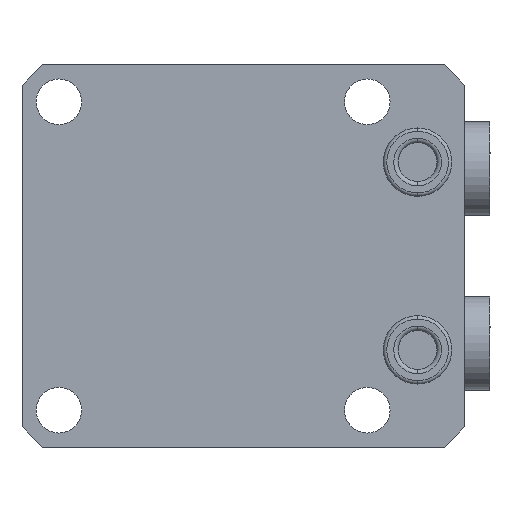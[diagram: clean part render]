
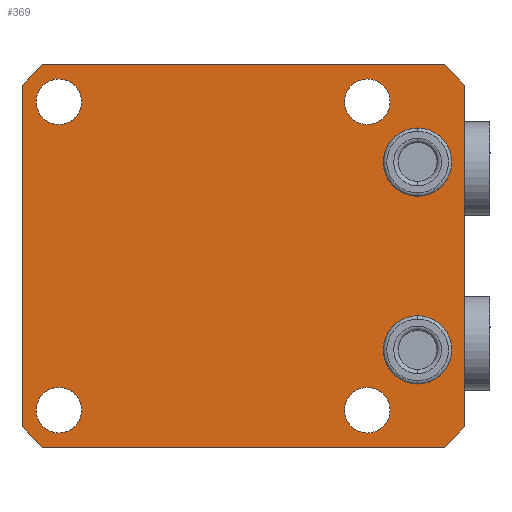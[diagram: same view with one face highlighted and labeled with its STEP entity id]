
A CAD part, front view. The second image highlights one B-rep face of the part: STEP entity #369.
In plain terms, the highlighted planar face has unit normal (0, -1, 0).
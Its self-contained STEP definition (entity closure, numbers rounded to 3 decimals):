
#232=PLANE('',#2699);
#293=FACE_BOUND('',#717,.T.);
#294=FACE_BOUND('',#718,.T.);
#295=FACE_BOUND('',#719,.T.);
#296=FACE_BOUND('',#720,.T.);
#297=FACE_BOUND('',#721,.T.);
#298=FACE_BOUND('',#722,.T.);
#299=FACE_BOUND('',#723,.T.);
#369=ADVANCED_FACE('',(#293,#294,#295,#296,#297,#298,#299),#232,.F.);
#717=EDGE_LOOP('',(#1124,#1125,#1126,#1127,#1128,#1129,#1130,#1131));
#718=EDGE_LOOP('',(#1132,#1133));
#719=EDGE_LOOP('',(#1134,#1135));
#720=EDGE_LOOP('',(#1136,#1137));
#721=EDGE_LOOP('',(#1138,#1139));
#722=EDGE_LOOP('',(#1140,#1141));
#723=EDGE_LOOP('',(#1142,#1143));
#897=CIRCLE('',#2654,5.1);
#913=CIRCLE('',#2675,5.1);
#914=CIRCLE('',#2677,3.4);
#916=CIRCLE('',#2680,3.4);
#918=CIRCLE('',#2683,3.4);
#920=CIRCLE('',#2686,3.4);
#924=CIRCLE('',#2693,3.4);
#925=CIRCLE('',#2694,3.4);
#926=CIRCLE('',#2695,3.4);
#927=CIRCLE('',#2696,3.4);
#928=CIRCLE('',#2697,5.1);
#929=CIRCLE('',#2698,5.1);
#1124=ORIENTED_EDGE('',*,*,#2047,.F.);
#1125=ORIENTED_EDGE('',*,*,#2048,.T.);
#1126=ORIENTED_EDGE('',*,*,#2049,.F.);
#1127=ORIENTED_EDGE('',*,*,#2050,.T.);
#1128=ORIENTED_EDGE('',*,*,#1970,.F.);
#1129=ORIENTED_EDGE('',*,*,#2051,.T.);
#1130=ORIENTED_EDGE('',*,*,#2052,.F.);
#1131=ORIENTED_EDGE('',*,*,#2053,.T.);
#1132=ORIENTED_EDGE('',*,*,#2027,.F.);
#1133=ORIENTED_EDGE('',*,*,#2054,.F.);
#1134=ORIENTED_EDGE('',*,*,#2023,.F.);
#1135=ORIENTED_EDGE('',*,*,#2055,.F.);
#1136=ORIENTED_EDGE('',*,*,#2019,.F.);
#1137=ORIENTED_EDGE('',*,*,#2056,.F.);
#1138=ORIENTED_EDGE('',*,*,#2015,.F.);
#1139=ORIENTED_EDGE('',*,*,#2057,.F.);
#1140=ORIENTED_EDGE('',*,*,#2058,.F.);
#1141=ORIENTED_EDGE('',*,*,#2013,.F.);
#1142=ORIENTED_EDGE('',*,*,#1993,.T.);
#1143=ORIENTED_EDGE('',*,*,#2059,.T.);
#1744=VERTEX_POINT('',#3741);
#1745=VERTEX_POINT('',#3743);
#1762=VERTEX_POINT('',#3788);
#1763=VERTEX_POINT('',#3790);
#1776=VERTEX_POINT('',#3827);
#1777=VERTEX_POINT('',#3829);
#1778=VERTEX_POINT('',#3833);
#1779=VERTEX_POINT('',#3834);
#1782=VERTEX_POINT('',#3842);
#1783=VERTEX_POINT('',#3843);
#1786=VERTEX_POINT('',#3851);
#1787=VERTEX_POINT('',#3852);
#1790=VERTEX_POINT('',#3860);
#1791=VERTEX_POINT('',#3861);
#1810=VERTEX_POINT('',#3940);
#1811=VERTEX_POINT('',#3941);
#1812=VERTEX_POINT('',#3943);
#1813=VERTEX_POINT('',#3945);
#1814=VERTEX_POINT('',#3948);
#1815=VERTEX_POINT('',#3950);
#1970=EDGE_CURVE('',#1744,#1745,#2315,.T.);
#1993=EDGE_CURVE('',#1763,#1762,#897,.T.);
#2013=EDGE_CURVE('',#1776,#1777,#913,.T.);
#2015=EDGE_CURVE('',#1778,#1779,#914,.T.);
#2019=EDGE_CURVE('',#1782,#1783,#916,.T.);
#2023=EDGE_CURVE('',#1786,#1787,#918,.T.);
#2027=EDGE_CURVE('',#1790,#1791,#920,.T.);
#2047=EDGE_CURVE('',#1810,#1811,#2339,.T.);
#2048=EDGE_CURVE('',#1810,#1812,#2340,.T.);
#2049=EDGE_CURVE('',#1813,#1812,#2341,.T.);
#2050=EDGE_CURVE('',#1813,#1745,#2342,.T.);
#2051=EDGE_CURVE('',#1744,#1814,#2343,.T.);
#2052=EDGE_CURVE('',#1815,#1814,#2344,.T.);
#2053=EDGE_CURVE('',#1815,#1811,#2345,.T.);
#2054=EDGE_CURVE('',#1791,#1790,#924,.T.);
#2055=EDGE_CURVE('',#1787,#1786,#925,.T.);
#2056=EDGE_CURVE('',#1783,#1782,#926,.T.);
#2057=EDGE_CURVE('',#1779,#1778,#927,.T.);
#2058=EDGE_CURVE('',#1777,#1776,#928,.T.);
#2059=EDGE_CURVE('',#1762,#1763,#929,.T.);
#2315=LINE('',#3742,#2467);
#2339=LINE('',#3939,#2491);
#2340=LINE('',#3942,#2492);
#2341=LINE('',#3944,#2493);
#2342=LINE('',#3946,#2494);
#2343=LINE('',#3947,#2495);
#2344=LINE('',#3949,#2496);
#2345=LINE('',#3951,#2497);
#2467=VECTOR('',#2964,1.);
#2491=VECTOR('',#3110,1.);
#2492=VECTOR('',#3111,1.);
#2493=VECTOR('',#3112,1.);
#2494=VECTOR('',#3113,1.);
#2495=VECTOR('',#3114,1.);
#2496=VECTOR('',#3115,1.);
#2497=VECTOR('',#3116,1.);
#2654=AXIS2_PLACEMENT_3D('',#3789,#3015,#3016);
#2675=AXIS2_PLACEMENT_3D('',#3828,#3061,#3062);
#2677=AXIS2_PLACEMENT_3D('',#3832,#3066,#3067);
#2680=AXIS2_PLACEMENT_3D('',#3841,#3074,#3075);
#2683=AXIS2_PLACEMENT_3D('',#3850,#3082,#3083);
#2686=AXIS2_PLACEMENT_3D('',#3859,#3090,#3091);
#2693=AXIS2_PLACEMENT_3D('',#3952,#3117,#3118);
#2694=AXIS2_PLACEMENT_3D('',#3953,#3119,#3120);
#2695=AXIS2_PLACEMENT_3D('',#3954,#3121,#3122);
#2696=AXIS2_PLACEMENT_3D('',#3955,#3123,#3124);
#2697=AXIS2_PLACEMENT_3D('',#3956,#3125,#3126);
#2698=AXIS2_PLACEMENT_3D('',#3957,#3127,#3128);
#2699=AXIS2_PLACEMENT_3D('',#3958,#3129,#3130);
#2964=DIRECTION('',(0.,0.,-1.));
#3015=DIRECTION('',(0.,1.,0.));
#3016=DIRECTION('',(0.,0.,1.));
#3061=DIRECTION('',(0.,-1.,0.));
#3062=DIRECTION('',(0.,0.,-1.));
#3066=DIRECTION('',(0.,-1.,0.));
#3067=DIRECTION('',(0.,0.,1.));
#3074=DIRECTION('',(0.,-1.,0.));
#3075=DIRECTION('',(0.,0.,1.));
#3082=DIRECTION('',(0.,-1.,0.));
#3083=DIRECTION('',(0.,0.,1.));
#3090=DIRECTION('',(0.,-1.,0.));
#3091=DIRECTION('',(0.,0.,1.));
#3110=DIRECTION('',(0.,0.,1.));
#3111=DIRECTION('',(0.707,0.,-0.707));
#3112=DIRECTION('',(-1.,0.,0.));
#3113=DIRECTION('',(0.707,0.,0.707));
#3114=DIRECTION('',(-0.707,0.,0.707));
#3115=DIRECTION('',(1.,0.,0.));
#3116=DIRECTION('',(-0.707,0.,-0.707));
#3117=DIRECTION('',(0.,-1.,0.));
#3118=DIRECTION('',(0.,0.,1.));
#3119=DIRECTION('',(0.,-1.,0.));
#3120=DIRECTION('',(0.,0.,1.));
#3121=DIRECTION('',(0.,-1.,0.));
#3122=DIRECTION('',(0.,0.,1.));
#3123=DIRECTION('',(0.,-1.,0.));
#3124=DIRECTION('',(0.,0.,1.));
#3125=DIRECTION('',(0.,-1.,0.));
#3126=DIRECTION('',(0.,0.,-1.));
#3127=DIRECTION('',(0.,1.,0.));
#3128=DIRECTION('',(0.,0.,1.));
#3129=DIRECTION('',(0.,1.,0.));
#3130=DIRECTION('',(0.,0.,-1.));
#3741=CARTESIAN_POINT('',(37.5,0.,25.5));
#3742=CARTESIAN_POINT('',(37.5,0.,-28.5));
#3743=CARTESIAN_POINT('',(37.5,0.,-25.5));
#3788=CARTESIAN_POINT('',(30.5,0.,19.1));
#3789=CARTESIAN_POINT('',(30.5,0.,14.));
#3790=CARTESIAN_POINT('',(30.5,0.,8.9));
#3827=CARTESIAN_POINT('',(30.5,0.,-8.9));
#3828=CARTESIAN_POINT('',(30.5,0.,-14.));
#3829=CARTESIAN_POINT('',(30.5,0.,-19.1));
#3832=CARTESIAN_POINT('',(-23.,0.,23.));
#3833=CARTESIAN_POINT('',(-23.,0.,26.4));
#3834=CARTESIAN_POINT('',(-23.,0.,19.6));
#3841=CARTESIAN_POINT('',(23.,0.,23.));
#3842=CARTESIAN_POINT('',(23.,0.,26.4));
#3843=CARTESIAN_POINT('',(23.,0.,19.6));
#3850=CARTESIAN_POINT('',(-23.,0.,-23.));
#3851=CARTESIAN_POINT('',(-23.,0.,-19.6));
#3852=CARTESIAN_POINT('',(-23.,0.,-26.4));
#3859=CARTESIAN_POINT('',(23.,0.,-23.));
#3860=CARTESIAN_POINT('',(23.,0.,-19.6));
#3861=CARTESIAN_POINT('',(23.,0.,-26.4));
#3939=CARTESIAN_POINT('',(-28.5,0.,-28.5));
#3940=CARTESIAN_POINT('',(-28.5,0.,-25.5));
#3941=CARTESIAN_POINT('',(-28.5,0.,25.5));
#3942=CARTESIAN_POINT('',(-28.5,0.,-25.5));
#3943=CARTESIAN_POINT('',(-25.5,0.,-28.5));
#3944=CARTESIAN_POINT('',(-28.5,0.,-28.5));
#3945=CARTESIAN_POINT('',(34.5,0.,-28.5));
#3946=CARTESIAN_POINT('',(34.5,0.,-28.5));
#3947=CARTESIAN_POINT('',(37.5,0.,25.5));
#3948=CARTESIAN_POINT('',(34.5,0.,28.5));
#3949=CARTESIAN_POINT('',(-28.5,0.,28.5));
#3950=CARTESIAN_POINT('',(-25.5,0.,28.5));
#3951=CARTESIAN_POINT('',(-25.5,0.,28.5));
#3952=CARTESIAN_POINT('',(23.,0.,-23.));
#3953=CARTESIAN_POINT('',(-23.,0.,-23.));
#3954=CARTESIAN_POINT('',(23.,0.,23.));
#3955=CARTESIAN_POINT('',(-23.,0.,23.));
#3956=CARTESIAN_POINT('',(30.5,0.,-14.));
#3957=CARTESIAN_POINT('',(30.5,0.,14.));
#3958=CARTESIAN_POINT('',(-28.5,0.,28.5));
